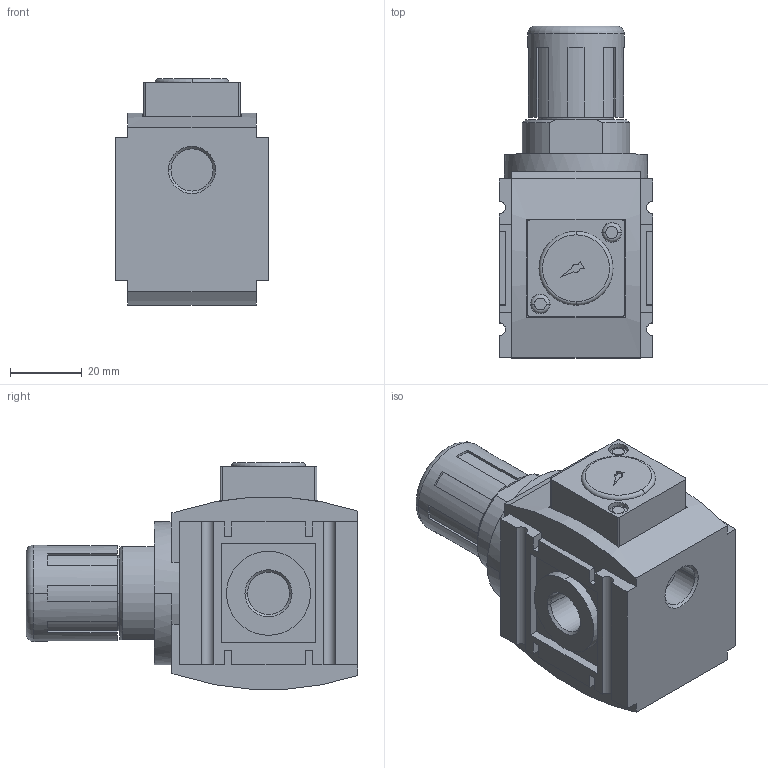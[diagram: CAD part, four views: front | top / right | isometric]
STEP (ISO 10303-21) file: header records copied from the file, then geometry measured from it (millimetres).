
FILE_DESCRIPTION((''),'2;1');
FILE_NAME('R412014631_ASM','2019-03-18T',('vol1hc'),(''),'CREO PARAMETRIC BY PTC INC, 2016260','CREO PARAMETRIC BY PTC INC, 2016260','');
FILE_SCHEMA(('CONFIG_CONTROL_DESIGN'));
Length unit declared in the file: millimetre
Products named in the file (3): R412014631; R412014761; R412014631_ASM
Assembly tree (2 placements, depth 2):
  R412014631_ASM
    R412014631
    R412014761
Bounding box: 43 x 92.8 x 63.34 mm (x, y, z)
Volume: 136968.5 mm3; surface area: 25155.1 mm2
Topology: 2 solids, 2 shells, 188 faces, 483 edges, 318 vertices
Faces by surface type: plane 122, cylinder 50, cone 8, torus 8
Entity records: 5828 total; most frequent: DIRECTION 1013, CARTESIAN_POINT 1010, ORIENTED_EDGE 966, EDGE_CURVE 483, AXIS2_PLACEMENT_3D 341, VECTOR 331, LINE 331, VERTEX_POINT 318
